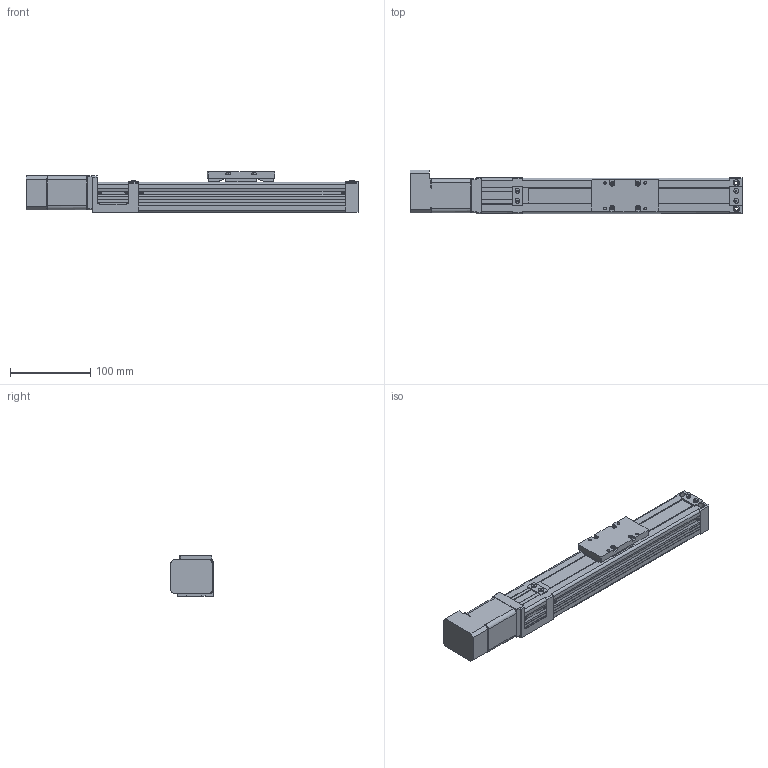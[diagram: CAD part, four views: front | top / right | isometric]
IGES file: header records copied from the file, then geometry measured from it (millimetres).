
Global section: file name: No Iges File Name specified; native system: AutoDesk Inventor R10; preprocessor: AutoDesk Inventor Iges Exporter R10; author: No Author specified; organization: No Organization specified; date: 20110617.145254; units: millimetre
Bounding box: 412.5 x 54.5 x 50 mm (x, y, z)
Surface area: 159603.7 mm2 (no closed solid volume)
Topology: 0 solids, 0 shells, 866 faces, 5658 edges, 5630 vertices
Faces by surface type: bspline 866
